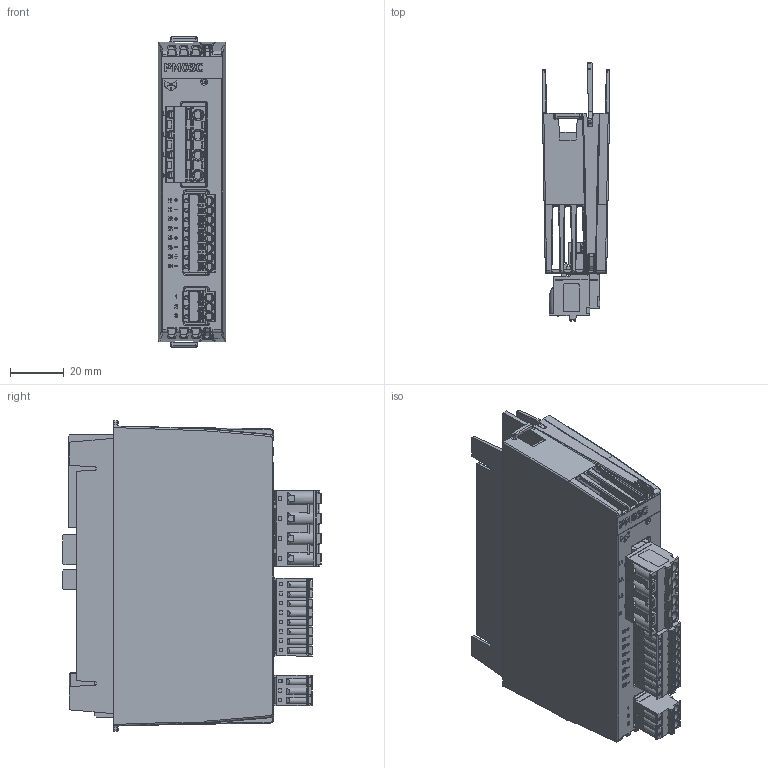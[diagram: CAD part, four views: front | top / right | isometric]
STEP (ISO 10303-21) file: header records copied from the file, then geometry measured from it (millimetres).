
FILE_DESCRIPTION(/* description */ (''),/* implementation_level */ '2;1');
FILE_NAME(/* name */ 'C:\Users\Public\Documents\Autodesk\Inventor 2023\PM03C_Simplified.stp',/* time_stamp */ '2024-10-18T22:11:56+02:00',/* author */ ('shoma'),/* organization */ (''),/* preprocessor_version */ 'ST-DEVELOPER v19',/* originating_system */ 'Autodesk Inventor 2023',/* authorisation */ '');
FILE_SCHEMA (('AUTOMOTIVE_DESIGN { 1 0 10303 214 3 1 1 }'));
Products named in the file (1): PM03C_Simplified
Bounding box: 24.95 x 96.19 x 115.5 mm (x, y, z)
Volume: 113438.5 mm3; surface area: 62563.5 mm2
Topology: 1 solids, 34 shells, 5364 faces, 14431 edges, 9234 vertices
Faces by surface type: plane 3920, cylinder 1009, bspline 263, cone 123, torus 26, sphere 23
Full cylindrical faces by diameter (mm): 0.296 x2, 0.434 x1, 0.457 x2, 1.17 x11, 1.25 x11, 1.3 x11, 1.4 x4, 1.5 x4, 1.6 x7, 2.5 x1, 2.8 x3, 3 x4, 3.1 x11, 4 x4
Entity records: 177958 total; most frequent: CARTESIAN_POINT 37564, ORIENTED_EDGE 28768, DIRECTION 27027, EDGE_CURVE 14384, LINE 11143, VECTOR 11143, VERTEX_POINT 9230, AXIS2_PLACEMENT_3D 7942
